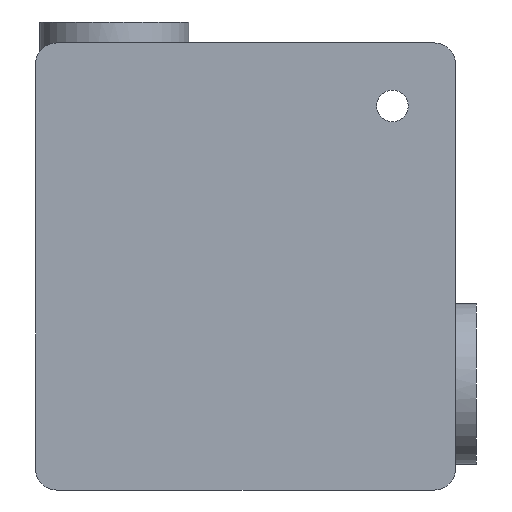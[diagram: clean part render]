
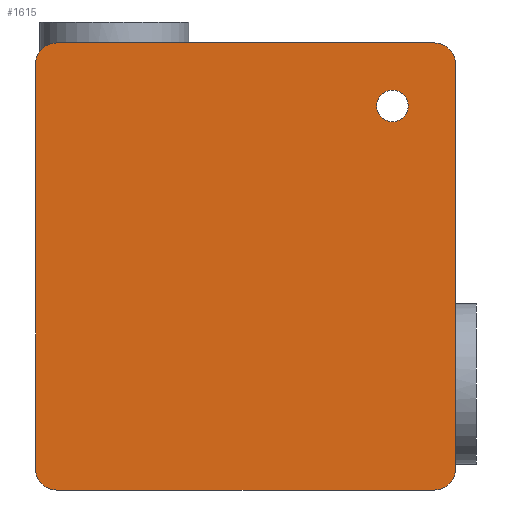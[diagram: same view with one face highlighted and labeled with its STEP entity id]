
A CAD part, front view. The second image highlights one B-rep face of the part: STEP entity #1615.
In plain terms, the highlighted planar face has unit normal (0, -1, 0).
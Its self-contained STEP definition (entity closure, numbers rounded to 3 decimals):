
#4 = AXIS2_PLACEMENT_3D ( 'NONE', #1780, #634, #604 ) ;
#39 = PLANE ( 'NONE',  #2098 ) ;
#84 = VERTEX_POINT ( 'NONE', #1620 ) ;
#123 = VERTEX_POINT ( 'NONE', #1647 ) ;
#161 = EDGE_CURVE ( 'NONE', #84, #999, #1656, .T. ) ;
#186 = CARTESIAN_POINT ( 'NONE',  ( 70., 0., 76.5 ) ) ;
#204 = EDGE_CURVE ( 'NONE', #1814, #443, #1117, .T. ) ;
#232 = DIRECTION ( 'NONE',  ( 0., 0., 1. ) ) ;
#242 = DIRECTION ( 'NONE',  ( 1., 0., 0. ) ) ;
#260 = CARTESIAN_POINT ( 'NONE',  ( -90., 0., 96.5 ) ) ;
#280 = CARTESIAN_POINT ( 'NONE',  ( 70., 0., 84. ) ) ;
#287 = LINE ( 'NONE', #1066, #429 ) ;
#320 = ORIENTED_EDGE ( 'NONE', *, *, #692, .T. ) ;
#378 = AXIS2_PLACEMENT_3D ( 'NONE', #186, #709, #1993 ) ;
#400 = CARTESIAN_POINT ( 'NONE',  ( 100., 0., 106.5 ) ) ;
#419 = ORIENTED_EDGE ( 'NONE', *, *, #1935, .F. ) ;
#429 = VECTOR ( 'NONE', #1402, 1000. ) ;
#443 = VERTEX_POINT ( 'NONE', #1868 ) ;
#473 = LINE ( 'NONE', #1103, #1731 ) ;
#503 = CARTESIAN_POINT ( 'NONE',  ( -90., 0., 106.5 ) ) ;
#523 = ORIENTED_EDGE ( 'NONE', *, *, #1720, .F. ) ;
#529 = DIRECTION ( 'NONE',  ( 0., 1., 0. ) ) ;
#533 = VECTOR ( 'NONE', #242, 1000. ) ;
#557 = ORIENTED_EDGE ( 'NONE', *, *, #590, .T. ) ;
#562 = DIRECTION ( 'NONE',  ( 0., -1., 0. ) ) ;
#573 = DIRECTION ( 'NONE',  ( 0., 0., 1. ) ) ;
#585 = VERTEX_POINT ( 'NONE', #1860 ) ;
#590 = EDGE_CURVE ( 'NONE', #1839, #1709, #1431, .T. ) ;
#604 = DIRECTION ( 'NONE',  ( 0., 0., 1. ) ) ;
#617 = AXIS2_PLACEMENT_3D ( 'NONE', #1721, #562, #1217 ) ;
#625 = CARTESIAN_POINT ( 'NONE',  ( 100., 0., -106.5 ) ) ;
#630 = EDGE_LOOP ( 'NONE', ( #1918, #1809 ) ) ;
#634 = DIRECTION ( 'NONE',  ( 0., -1., 0. ) ) ;
#691 = FACE_OUTER_BOUND ( 'NONE', #881, .T. ) ;
#692 = EDGE_CURVE ( 'NONE', #1691, #585, #1916, .T. ) ;
#702 = FACE_BOUND ( 'NONE', #630, .T. ) ;
#709 = DIRECTION ( 'NONE',  ( 0., 1., 0. ) ) ;
#724 = DIRECTION ( 'NONE',  ( 0., -1., 0. ) ) ;
#727 = AXIS2_PLACEMENT_3D ( 'NONE', #1107, #1799, #1153 ) ;
#789 = DIRECTION ( 'NONE',  ( 0., 0., 1. ) ) ;
#791 = EDGE_CURVE ( 'NONE', #1839, #123, #473, .T. ) ;
#837 = ORIENTED_EDGE ( 'NONE', *, *, #791, .F. ) ;
#881 = EDGE_LOOP ( 'NONE', ( #837, #557, #419, #1380, #523, #320, #2044, #1424 ) ) ;
#922 = CARTESIAN_POINT ( 'NONE',  ( -100., 0., -96.5 ) ) ;
#999 = VERTEX_POINT ( 'NONE', #1856 ) ;
#1042 = CARTESIAN_POINT ( 'NONE',  ( 0., 0., 0. ) ) ;
#1066 = CARTESIAN_POINT ( 'NONE',  ( 100., 0., 106.5 ) ) ;
#1103 = CARTESIAN_POINT ( 'NONE',  ( -100., 0., 106.5 ) ) ;
#1107 = CARTESIAN_POINT ( 'NONE',  ( 90., 0., -96.5 ) ) ;
#1117 = CIRCLE ( 'NONE', #378, 7.5 ) ;
#1153 = DIRECTION ( 'NONE',  ( 0., 0., 1. ) ) ;
#1194 = LINE ( 'NONE', #400, #533 ) ;
#1196 = VECTOR ( 'NONE', #1264, 1000. ) ;
#1213 = CARTESIAN_POINT ( 'NONE',  ( 100., 0., 96.5 ) ) ;
#1217 = DIRECTION ( 'NONE',  ( 0., 0., 1. ) ) ;
#1264 = DIRECTION ( 'NONE',  ( -1., 0., 0. ) ) ;
#1274 = DIRECTION ( 'NONE',  ( 0., 1., 0. ) ) ;
#1361 = CIRCLE ( 'NONE', #1704, 7.5 ) ;
#1380 = ORIENTED_EDGE ( 'NONE', *, *, #161, .T. ) ;
#1402 = DIRECTION ( 'NONE',  ( 0., 0., -1. ) ) ;
#1417 = AXIS2_PLACEMENT_3D ( 'NONE', #260, #724, #573 ) ;
#1424 = ORIENTED_EDGE ( 'NONE', *, *, #1794, .T. ) ;
#1431 = CIRCLE ( 'NONE', #617, 10. ) ;
#1441 = LINE ( 'NONE', #625, #1196 ) ;
#1559 = VERTEX_POINT ( 'NONE', #503 ) ;
#1615 = ADVANCED_FACE ( 'NONE', ( #702, #691 ), #39, .F. ) ;
#1617 = CARTESIAN_POINT ( 'NONE',  ( 70., 0., 76.5 ) ) ;
#1620 = CARTESIAN_POINT ( 'NONE',  ( 90., 0., -106.5 ) ) ;
#1647 = CARTESIAN_POINT ( 'NONE',  ( -100., 0., 96.5 ) ) ;
#1656 = CIRCLE ( 'NONE', #727, 10. ) ;
#1691 = VERTEX_POINT ( 'NONE', #1213 ) ;
#1692 = EDGE_CURVE ( 'NONE', #1559, #585, #1194, .T. ) ;
#1704 = AXIS2_PLACEMENT_3D ( 'NONE', #1617, #1274, #1795 ) ;
#1709 = VERTEX_POINT ( 'NONE', #1891 ) ;
#1720 = EDGE_CURVE ( 'NONE', #1691, #999, #287, .T. ) ;
#1721 = CARTESIAN_POINT ( 'NONE',  ( -90., 0., -96.5 ) ) ;
#1731 = VECTOR ( 'NONE', #789, 1000. ) ;
#1780 = CARTESIAN_POINT ( 'NONE',  ( 90., 0., 96.5 ) ) ;
#1794 = EDGE_CURVE ( 'NONE', #1559, #123, #2109, .T. ) ;
#1795 = DIRECTION ( 'NONE',  ( 0., 0., 1. ) ) ;
#1799 = DIRECTION ( 'NONE',  ( 0., -1., 0. ) ) ;
#1809 = ORIENTED_EDGE ( 'NONE', *, *, #1965, .T. ) ;
#1814 = VERTEX_POINT ( 'NONE', #280 ) ;
#1839 = VERTEX_POINT ( 'NONE', #922 ) ;
#1856 = CARTESIAN_POINT ( 'NONE',  ( 100., 0., -96.5 ) ) ;
#1860 = CARTESIAN_POINT ( 'NONE',  ( 90., 0., 106.5 ) ) ;
#1868 = CARTESIAN_POINT ( 'NONE',  ( 70., 0., 69. ) ) ;
#1891 = CARTESIAN_POINT ( 'NONE',  ( -90., 0., -106.5 ) ) ;
#1916 = CIRCLE ( 'NONE', #4, 10. ) ;
#1918 = ORIENTED_EDGE ( 'NONE', *, *, #204, .T. ) ;
#1935 = EDGE_CURVE ( 'NONE', #84, #1709, #1441, .T. ) ;
#1965 = EDGE_CURVE ( 'NONE', #443, #1814, #1361, .T. ) ;
#1993 = DIRECTION ( 'NONE',  ( 0., 0., 1. ) ) ;
#2044 = ORIENTED_EDGE ( 'NONE', *, *, #1692, .F. ) ;
#2098 = AXIS2_PLACEMENT_3D ( 'NONE', #1042, #529, #232 ) ;
#2109 = CIRCLE ( 'NONE', #1417, 10. ) ;
